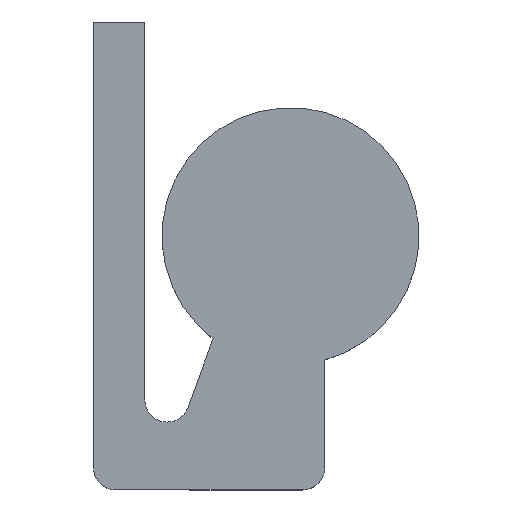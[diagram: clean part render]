
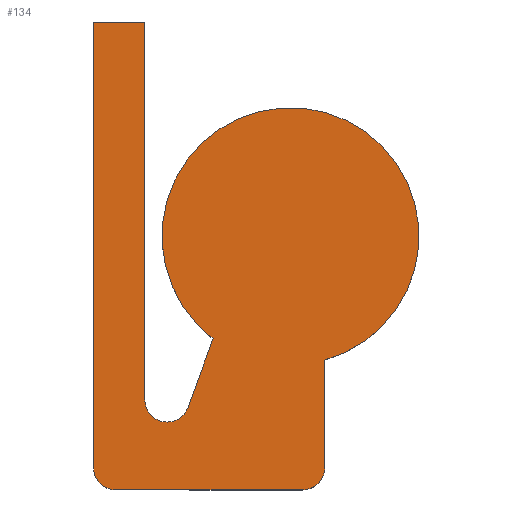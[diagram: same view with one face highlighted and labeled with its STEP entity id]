
A CAD part, top view. The second image highlights one B-rep face of the part: STEP entity #134.
In plain terms, the highlighted planar face has unit normal (0, 0, 1).
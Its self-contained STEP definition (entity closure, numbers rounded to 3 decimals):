
#134 = ADVANCED_FACE( '', ( #283 ), #284, .T. );
#283 = FACE_OUTER_BOUND( '', #427, .T. );
#284 = PLANE( '', #428 );
#427 = EDGE_LOOP( '', ( #716, #717, #718, #719, #720, #721, #722, #723, #724, #725, #726 ) );
#428 = AXIS2_PLACEMENT_3D( '', #727, #728, #729 );
#716 = ORIENTED_EDGE( '', *, *, #790, .F. );
#717 = ORIENTED_EDGE( '', *, *, #872, .T. );
#718 = ORIENTED_EDGE( '', *, *, #843, .F. );
#719 = ORIENTED_EDGE( '', *, *, #873, .F. );
#720 = ORIENTED_EDGE( '', *, *, #846, .F. );
#721 = ORIENTED_EDGE( '', *, *, #762, .F. );
#722 = ORIENTED_EDGE( '', *, *, #868, .F. );
#723 = ORIENTED_EDGE( '', *, *, #834, .F. );
#724 = ORIENTED_EDGE( '', *, *, #803, .F. );
#725 = ORIENTED_EDGE( '', *, *, #874, .F. );
#726 = ORIENTED_EDGE( '', *, *, #827, .F. );
#727 = CARTESIAN_POINT( '', ( -150., -150., 0. ) );
#728 = DIRECTION( '', ( 0., 0., 1. ) );
#729 = DIRECTION( '', ( 0., -1., 0. ) );
#762 = EDGE_CURVE( '', #881, #883, #884, .T. );
#790 = EDGE_CURVE( '', #929, #931, #932, .T. );
#803 = EDGE_CURVE( '', #951, #953, #954, .T. );
#827 = EDGE_CURVE( '', #931, #989, #990, .F. );
#834 = EDGE_CURVE( '', #953, #999, #1000, .F. );
#843 = EDGE_CURVE( '', #1011, #1013, #1014, .T. );
#846 = EDGE_CURVE( '', #883, #1017, #1018, .T. );
#868 = EDGE_CURVE( '', #999, #881, #1045, .T. );
#872 = EDGE_CURVE( '', #929, #1013, #1049, .T. );
#873 = EDGE_CURVE( '', #1017, #1011, #1050, .T. );
#874 = EDGE_CURVE( '', #989, #951, #1051, .T. );
#881 = VERTEX_POINT( '', #1058 );
#883 = VERTEX_POINT( '', #1061 );
#884 = LINE( '', #1062, #1063 );
#929 = VERTEX_POINT( '', #1127 );
#931 = VERTEX_POINT( '', #1130 );
#932 = LINE( '', #1131, #1132 );
#951 = VERTEX_POINT( '', #1155 );
#953 = VERTEX_POINT( '', #1158 );
#954 = LINE( '', #1159, #1160 );
#989 = VERTEX_POINT( '', #1200 );
#990 = CIRCLE( '', #1201, 13. );
#999 = VERTEX_POINT( '', #1211 );
#1000 = CIRCLE( '', #1212, 13. );
#1011 = VERTEX_POINT( '', #1226 );
#1013 = VERTEX_POINT( '', #1229 );
#1014 = LINE( '', #1230, #1231 );
#1017 = VERTEX_POINT( '', #1235 );
#1018 = LINE( '', #1236, #1237 );
#1045 = LINE( '', #1267, #1268 );
#1049 = CIRCLE( '', #1273, 75. );
#1050 = CIRCLE( '', #1274, 13. );
#1051 = LINE( '', #1275, #1276 );
#1058 = CARTESIAN_POINT( '', ( -115., 125., 0. ) );
#1061 = CARTESIAN_POINT( '', ( -85., 125., 0. ) );
#1062 = CARTESIAN_POINT( '', ( -150., 125., 0. ) );
#1063 = VECTOR( '', #1282, 1000. );
#1127 = CARTESIAN_POINT( '', ( 20., -72.284, 0. ) );
#1130 = CARTESIAN_POINT( '', ( 20., -135., 0. ) );
#1131 = CARTESIAN_POINT( '', ( 20., -150., 0. ) );
#1132 = VECTOR( '', #1312, 1000. );
#1155 = CARTESIAN_POINT( '', ( -58.714, -148., 0. ) );
#1158 = CARTESIAN_POINT( '', ( -102., -148., 0. ) );
#1159 = CARTESIAN_POINT( '', ( -150., -148., 0. ) );
#1160 = VECTOR( '', #1330, 1000. );
#1200 = CARTESIAN_POINT( '', ( 7., -148., 0. ) );
#1201 = AXIS2_PLACEMENT_3D( '', #1369, #1370, #1371 );
#1211 = CARTESIAN_POINT( '', ( -115., -135., 0. ) );
#1212 = AXIS2_PLACEMENT_3D( '', #1379, #1380, #1381 );
#1226 = CARTESIAN_POINT( '', ( -59.784, -99.931, 0. ) );
#1229 = CARTESIAN_POINT( '', ( -45.196, -59.852, 0. ) );
#1230 = CARTESIAN_POINT( '', ( -86.429, -173.138, 0. ) );
#1231 = VECTOR( '', #1392, 1000. );
#1235 = CARTESIAN_POINT( '', ( -85., -95.485, 0. ) );
#1236 = CARTESIAN_POINT( '', ( -85., -150., 0. ) );
#1237 = VECTOR( '', #1394, 1000. );
#1267 = CARTESIAN_POINT( '', ( -115., -150., 0. ) );
#1268 = VECTOR( '', #1419, 1000. );
#1273 = AXIS2_PLACEMENT_3D( '', #1421, #1422, #1423 );
#1274 = AXIS2_PLACEMENT_3D( '', #1424, #1425, #1426 );
#1275 = CARTESIAN_POINT( '', ( -150., -148., 0. ) );
#1276 = VECTOR( '', #1427, 1000. );
#1282 = DIRECTION( '', ( 1., 0., 0. ) );
#1312 = DIRECTION( '', ( 0., -1., 0. ) );
#1330 = DIRECTION( '', ( -1., 0., 0. ) );
#1369 = CARTESIAN_POINT( '', ( 7., -135., 0. ) );
#1370 = DIRECTION( '', ( 0., 0., 1. ) );
#1371 = DIRECTION( '', ( 1., 0., 0. ) );
#1379 = CARTESIAN_POINT( '', ( -102., -135., 0. ) );
#1380 = DIRECTION( '', ( 0., 0., 1. ) );
#1381 = DIRECTION( '', ( 1., 0., 0. ) );
#1392 = DIRECTION( '', ( 0.342, 0.94, 0. ) );
#1394 = DIRECTION( '', ( 0., -1., 0. ) );
#1419 = DIRECTION( '', ( 0., 1., 0. ) );
#1421 = CARTESIAN_POINT( '', ( 0., 0., 0. ) );
#1422 = DIRECTION( '', ( 0., 0., 1. ) );
#1423 = DIRECTION( '', ( -1., 0., 0. ) );
#1424 = CARTESIAN_POINT( '', ( -72., -95.485, 0. ) );
#1425 = DIRECTION( '', ( 0., 0., 1. ) );
#1426 = DIRECTION( '', ( 1., 0., 0. ) );
#1427 = DIRECTION( '', ( -1., 0., 0. ) );
